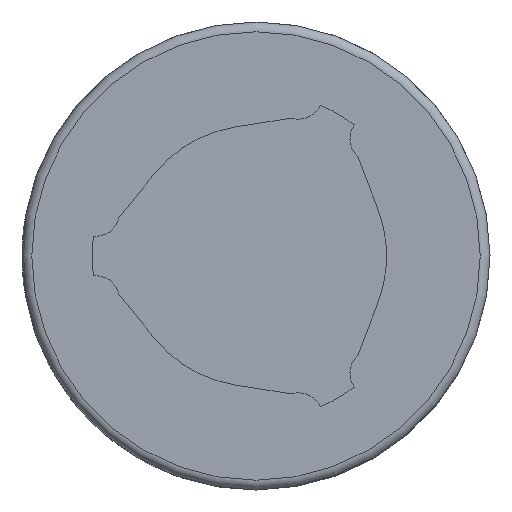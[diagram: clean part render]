
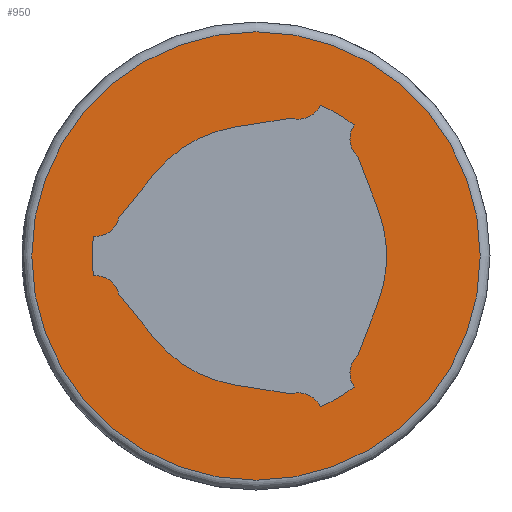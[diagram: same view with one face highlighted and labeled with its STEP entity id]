
A CAD part, left-side view. The second image highlights one B-rep face of the part: STEP entity #950.
In plain terms, the highlighted planar face has unit normal (-1, 0, 0).
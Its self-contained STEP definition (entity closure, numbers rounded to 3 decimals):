
#48=PLANE('',#1057);
#92=LINE('',#1550,#162);
#93=LINE('',#1559,#163);
#94=LINE('',#1563,#164);
#95=LINE('',#1571,#165);
#96=LINE('',#1575,#166);
#97=LINE('',#1583,#167);
#162=VECTOR('',#1255,1000.);
#163=VECTOR('',#1262,1000.);
#164=VECTOR('',#1265,1000.);
#165=VECTOR('',#1272,1000.);
#166=VECTOR('',#1275,1000.);
#167=VECTOR('',#1282,1000.);
#310=ORIENTED_EDGE('',*,*,#528,.F.);
#311=ORIENTED_EDGE('',*,*,#529,.T.);
#312=ORIENTED_EDGE('',*,*,#530,.F.);
#313=ORIENTED_EDGE('',*,*,#531,.T.);
#314=ORIENTED_EDGE('',*,*,#532,.F.);
#315=ORIENTED_EDGE('',*,*,#533,.T.);
#316=ORIENTED_EDGE('',*,*,#534,.T.);
#317=ORIENTED_EDGE('',*,*,#535,.T.);
#318=ORIENTED_EDGE('',*,*,#536,.F.);
#319=ORIENTED_EDGE('',*,*,#537,.T.);
#320=ORIENTED_EDGE('',*,*,#538,.F.);
#321=ORIENTED_EDGE('',*,*,#539,.T.);
#322=ORIENTED_EDGE('',*,*,#540,.T.);
#323=ORIENTED_EDGE('',*,*,#541,.T.);
#324=ORIENTED_EDGE('',*,*,#542,.F.);
#325=ORIENTED_EDGE('',*,*,#543,.T.);
#326=ORIENTED_EDGE('',*,*,#544,.F.);
#327=ORIENTED_EDGE('',*,*,#545,.T.);
#328=ORIENTED_EDGE('',*,*,#546,.T.);
#528=EDGE_CURVE('',#646,#646,#728,.T.);
#529=EDGE_CURVE('',#647,#648,#92,.T.);
#530=EDGE_CURVE('',#649,#648,#729,.T.);
#531=EDGE_CURVE('',#649,#650,#730,.T.);
#532=EDGE_CURVE('',#651,#650,#731,.T.);
#533=EDGE_CURVE('',#651,#652,#93,.T.);
#534=EDGE_CURVE('',#652,#653,#732,.T.);
#535=EDGE_CURVE('',#653,#654,#94,.T.);
#536=EDGE_CURVE('',#655,#654,#733,.T.);
#537=EDGE_CURVE('',#655,#656,#734,.T.);
#538=EDGE_CURVE('',#657,#656,#735,.T.);
#539=EDGE_CURVE('',#657,#658,#95,.T.);
#540=EDGE_CURVE('',#658,#659,#736,.T.);
#541=EDGE_CURVE('',#659,#660,#96,.T.);
#542=EDGE_CURVE('',#661,#660,#737,.T.);
#543=EDGE_CURVE('',#661,#662,#738,.T.);
#544=EDGE_CURVE('',#663,#662,#739,.T.);
#545=EDGE_CURVE('',#663,#664,#97,.T.);
#546=EDGE_CURVE('',#664,#647,#740,.T.);
#646=VERTEX_POINT('',#1549);
#647=VERTEX_POINT('',#1551);
#648=VERTEX_POINT('',#1552);
#649=VERTEX_POINT('',#1554);
#650=VERTEX_POINT('',#1556);
#651=VERTEX_POINT('',#1558);
#652=VERTEX_POINT('',#1560);
#653=VERTEX_POINT('',#1562);
#654=VERTEX_POINT('',#1564);
#655=VERTEX_POINT('',#1566);
#656=VERTEX_POINT('',#1568);
#657=VERTEX_POINT('',#1570);
#658=VERTEX_POINT('',#1572);
#659=VERTEX_POINT('',#1574);
#660=VERTEX_POINT('',#1576);
#661=VERTEX_POINT('',#1578);
#662=VERTEX_POINT('',#1580);
#663=VERTEX_POINT('',#1582);
#664=VERTEX_POINT('',#1584);
#728=CIRCLE('',#1058,57.5);
#729=CIRCLE('',#1059,6.19);
#730=CIRCLE('',#1060,42.);
#731=CIRCLE('',#1061,6.19);
#732=CIRCLE('',#1062,33.5);
#733=CIRCLE('',#1063,6.19);
#734=CIRCLE('',#1064,42.);
#735=CIRCLE('',#1065,6.19);
#736=CIRCLE('',#1066,33.5);
#737=CIRCLE('',#1067,6.19);
#738=CIRCLE('',#1068,42.);
#739=CIRCLE('',#1069,6.19);
#740=CIRCLE('',#1070,33.5);
#783=EDGE_LOOP('',(#310));
#784=EDGE_LOOP('',(#311,#312,#313,#314,#315,#316,#317,#318,#319,#320,#321,
#322,#323,#324,#325,#326,#327,#328));
#851=FACE_BOUND('',#783,.T.);
#852=FACE_BOUND('',#784,.T.);
#950=ADVANCED_FACE('',(#851,#852),#48,.F.);
#1057=AXIS2_PLACEMENT_3D('',#1547,#1251,#1252);
#1058=AXIS2_PLACEMENT_3D('',#1548,#1253,#1254);
#1059=AXIS2_PLACEMENT_3D('',#1553,#1256,#1257);
#1060=AXIS2_PLACEMENT_3D('',#1555,#1258,#1259);
#1061=AXIS2_PLACEMENT_3D('',#1557,#1260,#1261);
#1062=AXIS2_PLACEMENT_3D('',#1561,#1263,#1264);
#1063=AXIS2_PLACEMENT_3D('',#1565,#1266,#1267);
#1064=AXIS2_PLACEMENT_3D('',#1567,#1268,#1269);
#1065=AXIS2_PLACEMENT_3D('',#1569,#1270,#1271);
#1066=AXIS2_PLACEMENT_3D('',#1573,#1273,#1274);
#1067=AXIS2_PLACEMENT_3D('',#1577,#1276,#1277);
#1068=AXIS2_PLACEMENT_3D('',#1579,#1278,#1279);
#1069=AXIS2_PLACEMENT_3D('',#1581,#1280,#1281);
#1070=AXIS2_PLACEMENT_3D('',#1585,#1283,#1284);
#1251=DIRECTION('',(1.,0.,0.));
#1252=DIRECTION('',(0.,0.,-1.));
#1253=DIRECTION('',(1.,0.,0.));
#1254=DIRECTION('',(0.,0.,-1.));
#1255=DIRECTION('',(0.,-0.988,0.156));
#1256=DIRECTION('',(1.,0.,0.));
#1257=DIRECTION('',(0.,0.,-1.));
#1258=DIRECTION('',(1.,0.,0.));
#1259=DIRECTION('',(0.,0.,-1.));
#1260=DIRECTION('',(1.,0.,0.));
#1261=DIRECTION('',(0.,0.,-1.));
#1262=DIRECTION('',(0.,-0.358,-0.934));
#1263=DIRECTION('',(1.,0.,0.));
#1264=DIRECTION('',(0.,0.,-1.));
#1265=DIRECTION('',(0.,0.358,-0.934));
#1266=DIRECTION('',(1.,0.,0.));
#1267=DIRECTION('',(0.,0.,-1.));
#1268=DIRECTION('',(1.,0.,0.));
#1269=DIRECTION('',(0.,0.,-1.));
#1270=DIRECTION('',(1.,0.,0.));
#1271=DIRECTION('',(0.,0.,-1.));
#1272=DIRECTION('',(0.,0.988,0.156));
#1273=DIRECTION('',(1.,0.,0.));
#1274=DIRECTION('',(0.,0.,-1.));
#1275=DIRECTION('',(0.,0.629,0.777));
#1276=DIRECTION('',(1.,0.,0.));
#1277=DIRECTION('',(0.,0.,-1.));
#1278=DIRECTION('',(1.,0.,0.));
#1279=DIRECTION('',(0.,0.,-1.));
#1280=DIRECTION('',(1.,0.,0.));
#1281=DIRECTION('',(0.,0.,-1.));
#1282=DIRECTION('',(0.,-0.629,0.777));
#1283=DIRECTION('',(1.,0.,0.));
#1284=DIRECTION('',(0.,0.,-1.));
#1547=CARTESIAN_POINT('',(0.,0.,0.));
#1548=CARTESIAN_POINT('',(0.,0.,0.));
#1549=CARTESIAN_POINT('',(0.,0.,-57.5));
#1550=CARTESIAN_POINT('',(0.,5.241,33.088));
#1551=CARTESIAN_POINT('',(0.,5.241,33.088));
#1552=CARTESIAN_POINT('',(0.,-9.035,35.349));
#1553=CARTESIAN_POINT('',(0.,-10.881,41.257));
#1554=CARTESIAN_POINT('',(0.,-16.486,38.629));
#1555=CARTESIAN_POINT('',(0.,0.,0.));
#1556=CARTESIAN_POINT('',(0.,-25.211,33.592));
#1557=CARTESIAN_POINT('',(0.,-30.289,30.052));
#1558=CARTESIAN_POINT('',(0.,-26.095,25.499));
#1559=CARTESIAN_POINT('',(0.,-26.095,25.499));
#1560=CARTESIAN_POINT('',(0.,-31.275,12.005));
#1561=CARTESIAN_POINT('',(0.,0.,0.));
#1562=CARTESIAN_POINT('',(0.,-31.275,-12.005));
#1563=CARTESIAN_POINT('',(0.,-31.275,-12.005));
#1564=CARTESIAN_POINT('',(0.,-26.095,-25.499));
#1565=CARTESIAN_POINT('',(0.,-30.289,-30.052));
#1566=CARTESIAN_POINT('',(0.,-25.211,-33.592));
#1567=CARTESIAN_POINT('',(0.,0.,0.));
#1568=CARTESIAN_POINT('',(0.,-16.486,-38.629));
#1569=CARTESIAN_POINT('',(0.,-10.881,-41.257));
#1570=CARTESIAN_POINT('',(0.,-9.035,-35.349));
#1571=CARTESIAN_POINT('',(0.,-9.035,-35.349));
#1572=CARTESIAN_POINT('',(0.,5.241,-33.088));
#1573=CARTESIAN_POINT('',(0.,0.,0.));
#1574=CARTESIAN_POINT('',(0.,26.034,-21.082));
#1575=CARTESIAN_POINT('',(0.,26.034,-21.082));
#1576=CARTESIAN_POINT('',(0.,35.131,-9.849));
#1577=CARTESIAN_POINT('',(0.,41.17,-11.205));
#1578=CARTESIAN_POINT('',(0.,41.697,-5.037));
#1579=CARTESIAN_POINT('',(0.,0.,0.));
#1580=CARTESIAN_POINT('',(0.,41.697,5.037));
#1581=CARTESIAN_POINT('',(0.,41.17,11.205));
#1582=CARTESIAN_POINT('',(0.,35.131,9.849));
#1583=CARTESIAN_POINT('',(0.,35.131,9.849));
#1584=CARTESIAN_POINT('',(0.,26.034,21.082));
#1585=CARTESIAN_POINT('',(0.,0.,0.));
